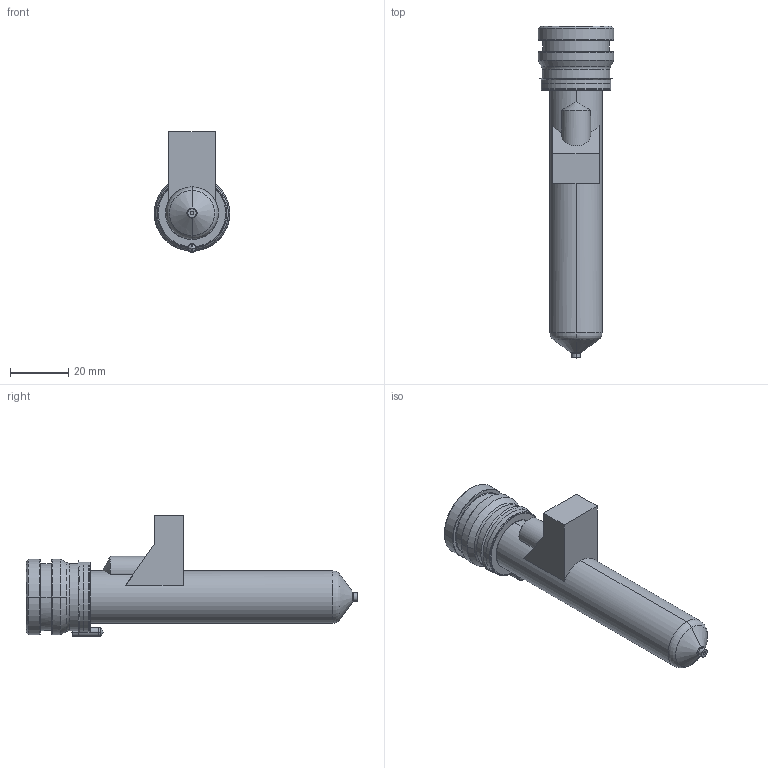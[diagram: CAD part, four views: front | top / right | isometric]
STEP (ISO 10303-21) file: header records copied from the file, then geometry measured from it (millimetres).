
FILE_DESCRIPTION((''),'2;1');
FILE_NAME('MPN-08-24-VP3-096-M','2026-02-05T13:32:38',('UPTIO'),('Thermoplay S.p.A.'),'CREO PARAMETRIC BY PTC INC, 2023494','CREO PARAMETRIC BY PTC INC, 2023494','');
FILE_SCHEMA(('CONFIG_CONTROL_DESIGN','SHAPE_APPEARANCE_LAYERS_GROUPS'));
Length unit declared in the file: millimetre
Products named in the file (1): MPN-08-24-VP3-096-M
Bounding box: 26 x 114.1 x 41.5 mm (x, y, z)
Volume: 22824.9 mm3; surface area: 29878.2 mm2
Topology: 2 solids, 3 shells, 571 faces, 1494 edges, 922 vertices
Faces by surface type: cylinder 178, plane 143, bspline 103, torus 68, cone 66, sphere 7, extrusion 6
Entity records: 29947 total; most frequent: CARTESIAN_POINT 13437, ORIENTED_EDGE 2970, DIRECTION 2631, EDGE_CURVE 1485, AXIS2_PLACEMENT_3D 1029, VERTEX_POINT 922, EDGE_LOOP 601, VECTOR 573
